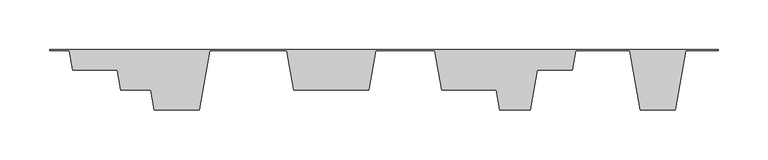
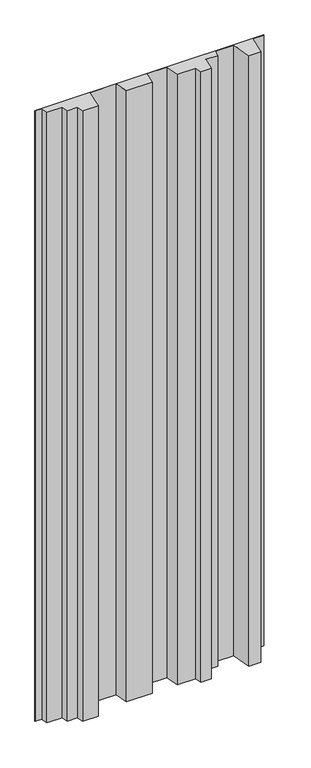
"""IFC4 building model written with IfcOpenShell, lengths in millimetres: plate geometry, ATELIERS 3S_NEW YORK MANHATTAN 780_VERTICAL : AZURO."""

from ifc_helpers import new_model, si_unit, origin, origin_with_axes, place, context, project, spatial, polyline, outline, extrude, source, transform, mapped, element, save


def plate_b545cc7a(model_context):
    return source(origin(), model_context, "Body", "SweptSolid", [
        extrude(outline(polyline([(-317.0646622, -0.864757), (-336.7499998, -0.864757), (-336.7499998, 0.0), (336.7499998, 0.0), (336.7499998, -0.864757), (304.148534, -0.864757), (293.5689152, -60.864757), (257.9395905, -60.864757), (247.3599716, -0.864757), (192.9892963, -0.864757), (189.4627567, -20.864757), (154.4627567, -20.864757), (147.4096775, -60.864757), (116.7803528, -60.864757), (113.2538132, -40.864757), (58.2538132, -40.864757), (51.2007339, -0.864757), (-8.1699413, -0.864757), (-15.2230206, -40.864757), (-90.8523453, -40.864757), (-97.9054245, -0.864757), (-175.2760998, -0.864757), (-185.8557186, -60.864757), (-231.4850434, -60.864757), (-235.011583, -40.864757), (-265.011583, -40.864757), (-268.5381226, -20.864757), (-313.5381226, -20.864757), (-317.0646622, -0.864757)])), origin_with_axes(), (0.0, 0.0, 1.0), 1900.0),
    ])


if __name__ == "__main__":
    model = new_model("IFC4")
    model_context = context("Model", 3, world=origin())
    ifc_project = project(units=[si_unit("LENGTHUNIT", "METRE", prefix="MILLI")], contexts=[model_context])
    site = spatial("IfcSite", under=ifc_project)
    building = spatial("IfcBuilding", under=site)
    placement = place(None, origin())
    plate_shape = plate_b545cc7a(model_context)
    element("IfcPlate", 1, ObjectType="ATELIERS 3S_NEW YORK MANHATTAN 780_VERTICAL : AZURO", at=placement, inside=building, context=model_context, shape_type="MappedRepresentation", body=[
        mapped(plate_shape, transform((0.0, 0.0, 0.0), x_axis=(1.0, 0.0, 0.0), y_axis=(0.0, 1.0, 0.0), z_axis=(0.0, 0.0, 1.0))),
    ])
    save(model, "model.ifc")
